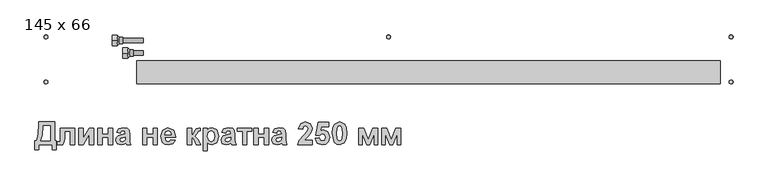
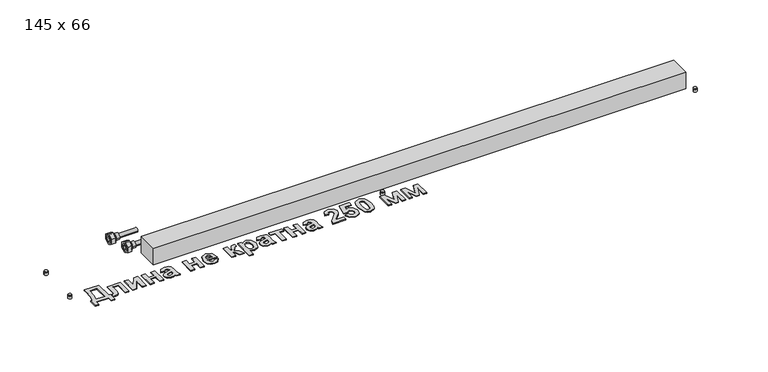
"""IFC4 building model written with IfcOpenShell, lengths in millimetres: proxy geometry, Mohlenhof_Внутрипольный конвектор_QSKM : 145 x 66."""

from ifc_helpers import new_model, si_unit, point, frame, frame_2d, origin, origin_with_axes, place, context, project, spatial, polyline, circle_curve, trimmed, segment, composite_curve, outline, extrude, source, transform, mapped, element, save
from ifc_brep_helpers import plane_surface, cylinder_surface, revolved_surface, advanced_brep


def proxy_145_x_66_9b323317(model_context):
    return source(origin(), model_context, "Body", "SolidModel", [
        extrude(outline(composite_curve([segment(trimmed(circle_curve(frame_2d((0.0, -223.5)), 4.5), [point((-4.5, -223.5))], [point((4.5, -223.5))], False, "CARTESIAN"), True, "CONTINUOUS"), segment(trimmed(circle_curve(frame_2d((0.0, -223.5)), 4.5), [point((4.5, -223.5))], [point((-4.5, -223.5))], False, "CARTESIAN"), True, "CONTINUOUS")], self_intersect=False)), frame((0.0, 0.0, -79.0), z_axis=(0.0, 0.0, 1.0), x_axis=(1.0, 0.0, 0.0)), (0.0, 0.0, 1.0), 7.0),
        extrude(outline(composite_curve([segment(trimmed(circle_curve(frame_2d((0.0, -223.5)), 4.0), [point((-4.0, -223.5))], [point((4.0, -223.5))], False, "CARTESIAN"), True, "CONTINUOUS"), segment(trimmed(circle_curve(frame_2d((0.0, -223.5)), 4.0), [point((4.0, -223.5))], [point((-4.0, -223.5))], False, "CARTESIAN"), True, "CONTINUOUS")], self_intersect=False)), frame((0.0, 0.0, -72.0), z_axis=(0.0, 0.0, 1.0), x_axis=(1.0, 0.0, 0.0)), (0.0, 0.0, 1.0), 1.5),
        extrude(outline(composite_curve([segment(trimmed(circle_curve(frame_2d((0.0, -121.5)), 4.5), [point((-4.5, -121.5))], [point((4.5, -121.5))], False, "CARTESIAN"), True, "CONTINUOUS"), segment(trimmed(circle_curve(frame_2d((0.0, -121.5)), 4.5), [point((4.5, -121.5))], [point((-4.5, -121.5))], False, "CARTESIAN"), True, "CONTINUOUS")], self_intersect=False)), frame((0.0, 0.0, -79.0), z_axis=(0.0, 0.0, 1.0), x_axis=(1.0, 0.0, 0.0)), (0.0, 0.0, 1.0), 7.0),
        extrude(outline(composite_curve([segment(trimmed(circle_curve(frame_2d((0.0, -121.5)), 4.0), [point((-4.0, -121.5))], [point((4.0, -121.5))], False, "CARTESIAN"), True, "CONTINUOUS"), segment(trimmed(circle_curve(frame_2d((0.0, -121.5)), 4.0), [point((4.0, -121.5))], [point((-4.0, -121.5))], False, "CARTESIAN"), True, "CONTINUOUS")], self_intersect=False)), frame((0.0, 0.0, -72.0), z_axis=(0.0, 0.0, 1.0), x_axis=(1.0, 0.0, 0.0)), (0.0, 0.0, 1.0), 1.5),
        extrude(outline(polyline([(-791.0929735, -313.98703), (-755.4648675, -313.98703), (-755.4648675, -356.0929735), (-751.416219, -356.0929735), (-751.416219, -376.3362156), (-760.3232456, -376.3362156), (-760.3232456, -365.0), (-791.0929735, -365.0), (-791.0929735, -376.3362156), (-800.0, -376.3362156), (-800.0, -356.0929735), (-795.9513516, -356.0929735), (-792.0355495, -341.0244102), (-791.0929735, -319.3388371), (-791.0929735, -313.98703)]), holes=[polyline([(-781.3762173, -322.8940565), (-782.5908118, -342.5806094), (-786.2345954, -356.0929735), (-765.1816237, -356.0929735), (-765.1816237, -322.8940565), (-781.3762173, -322.8940565)])]), origin_with_axes(), (0.0, 0.0, 1.0), 2.0),
        extrude(outline(polyline([(-742.5091925, -327.7524346), (-710.1200052, -327.7524346), (-710.1200052, -365.0), (-719.8367614, -365.0), (-719.8367614, -335.0400017), (-732.7924364, -335.0400017), (-732.7924364, -352.2720616), (-734.2221153, -361.4953887), (-737.3851219, -364.981022), (-742.9646655, -365.8097297), (-748.98703, -365.2150844), (-748.98703, -358.3450342), (-745.2293782, -358.5221625), (-742.9330354, -357.1810478), (-742.5091925, -349.7163522), (-742.5091925, -327.7524346)])), origin_with_axes(), (0.0, 0.0, 1.0), 2.0),
        extrude(outline(polyline([(-700.4032491, -327.7524346), (-690.6864929, -327.7524346), (-690.6864929, -350.6652542), (-676.9210883, -327.7524346), (-667.2043321, -327.7524346), (-667.2043321, -365.0), (-676.9210883, -365.0), (-676.9210883, -342.0745284), (-690.6864929, -365.0), (-700.4032491, -365.0), (-700.4032491, -327.7524346)])), origin_with_axes(), (0.0, 0.0, 1.0), 2.0),
        extrude(outline(polyline([(-657.4875759, -327.7524346), (-647.7708197, -327.7524346), (-647.7708197, -341.5178392), (-634.0054151, -341.5178392), (-634.0054151, -327.7524346), (-624.2886589, -327.7524346), (-624.2886589, -365.0), (-634.0054151, -365.0), (-634.0054151, -348.8054063), (-647.7708197, -348.8054063), (-647.7708197, -365.0), (-657.4875759, -365.0), (-657.4875759, -327.7524346)])), origin_with_axes(), (0.0, 0.0, 1.0), 2.0),
        extrude(outline(polyline([(-606.4746059, -339.0886502), (-615.3816324, -337.4691908), (-610.4916242, -329.5237183), (-600.1865488, -326.9427049), (-590.9379176, -328.5052302), (-586.6615327, -332.4653144), (-585.4216341, -341.2774507), (-585.4216341, -352.7654906), (-584.9092271, -360.0024496), (-582.9924451, -365.0), (-592.7092013, -365.0), (-593.6201472, -361.9129056), (-599.1617347, -364.525549), (-605.070231, -365.8097297), (-613.8064551, -362.6910052), (-617.0010918, -354.8151188), (-615.5777388, -349.1976192), (-611.5860245, -345.4146633), (-604.1845891, -343.1246465), (-595.1383903, -340.7081095), (-596.3466588, -335.4828227), (-600.8950623, -334.2302721), (-604.4249776, -335.3056943), (-606.4746059, -339.0886502)]), holes=[polyline([(-595.1383903, -347.9956767), (-600.6167177, -349.3431175), (-605.5257039, -350.8803387), (-607.2843356, -353.9800851), (-605.8736346, -357.1747217), (-602.2867852, -358.5221625), (-597.6434915, -356.9533113), (-595.4926471, -354.0433452), (-595.1383903, -349.7543083), (-595.1383903, -347.9956767)])]), origin_with_axes(), (0.0, 0.0, 1.0), 2.0),
        extrude(outline(polyline([(-556.2713656, -327.7524346), (-546.5546094, -327.7524346), (-546.5546094, -341.5178392), (-532.7892048, -341.5178392), (-532.7892048, -327.7524346), (-523.0724486, -327.7524346), (-523.0724486, -365.0), (-532.7892048, -365.0), (-532.7892048, -348.8054063), (-546.5546094, -348.8054063), (-546.5546094, -365.0), (-556.2713656, -365.0), (-556.2713656, -327.7524346)])), origin_with_axes(), (0.0, 0.0, 1.0), 2.0),
        extrude(outline(polyline([(-492.3027206, -353.6637844), (-482.5859645, -355.2832438), (-488.3805925, -363.1211741), (-498.2871291, -365.8097297), (-506.4761531, -364.2250634), (-512.21701, -359.4710645), (-515.7848814, -346.6545619), (-511.0530236, -332.1806438), (-499.0842067, -326.9427049), (-486.2677041, -332.3198161), (-481.7762348, -348.8054063), (-506.0681253, -348.8054063), (-503.7781085, -355.9664532), (-498.3250852, -358.5221625), (-494.5927374, -357.3708281), (-492.3027206, -353.6637844)]), holes=[polyline([(-491.492991, -343.1372986), (-493.6564875, -336.5013108), (-498.6666899, -334.2302721), (-503.8793247, -336.621505), (-505.9036489, -343.1372986), (-491.492991, -343.1372986)])]), origin_with_axes(), (0.0, 0.0, 1.0), 2.0),
        extrude(outline(polyline([(-455.0551553, -327.7524346), (-445.3383991, -327.7524346), (-445.3383991, -343.1372986), (-441.94133, -341.6380335), (-439.531119, -336.3052044), (-435.4824706, -329.2833298), (-429.7131466, -327.7524346), (-425.9048867, -327.9169109), (-425.8669306, -334.2302721), (-430.7253087, -334.9893936), (-433.0279775, -339.6959474), (-437.8483995, -346.211741), (-430.0800554, -354.1951695), (-424.2854273, -365.0), (-435.204126, -365.0), (-439.8094636, -354.5747303), (-442.2639567, -350.5134299), (-445.3383991, -349.615136), (-445.3383991, -365.0), (-455.0551553, -365.0), (-455.0551553, -327.7524346)])), origin_with_axes(), (0.0, 0.0, 1.0), 2.0),
        extrude(outline(polyline([(-419.4270492, -327.7524346), (-409.710293, -327.7524346), (-409.710293, -333.1168938), (-405.0923034, -328.6507285), (-398.627118, -326.9427049), (-388.1196102, -332.0224935), (-383.7989432, -346.1611329), (-388.2587825, -360.647703), (-399.0699389, -365.8097297), (-404.5482663, -364.6077872), (-409.710293, -360.4832266), (-409.710293, -378.7654046), (-419.4270492, -378.7654046), (-419.4270492, -327.7524346)]), holes=[polyline([(-409.710293, -345.730964), (-407.274778, -355.397112), (-401.3346516, -358.5221625), (-395.748782, -355.6564786), (-393.5156994, -346.249697), (-395.8120422, -337.1908462), (-401.51178, -334.2302721), (-407.3759942, -337.1339121), (-409.710293, -345.730964)])]), origin_with_axes(), (0.0, 0.0, 1.0), 2.0),
        extrude(outline(polyline([(-368.4140792, -339.0886502), (-377.3211057, -337.4691908), (-372.4310976, -329.5237183), (-362.1260222, -326.9427049), (-352.8773909, -328.5052302), (-348.6010061, -332.4653144), (-347.3611075, -341.2774507), (-347.3611075, -352.7654906), (-346.8487004, -360.0024496), (-344.9319184, -365.0), (-354.6486746, -365.0), (-355.5596205, -361.9129056), (-361.101208, -364.525549), (-367.0097043, -365.8097297), (-375.7459285, -362.6910052), (-378.9405651, -354.8151188), (-377.5172121, -349.1976192), (-373.5254978, -345.4146633), (-366.1240625, -343.1246465), (-357.0778637, -340.7081095), (-358.2861322, -335.4828227), (-362.8345356, -334.2302721), (-366.364451, -335.3056943), (-368.4140792, -339.0886502)]), holes=[polyline([(-357.0778637, -347.9956767), (-362.5561911, -349.3431175), (-367.4651773, -350.8803387), (-369.2238089, -353.9800851), (-367.813108, -357.1747217), (-364.2262585, -358.5221625), (-359.5829649, -356.9533113), (-357.4321204, -354.0433452), (-357.0778637, -349.7543083), (-357.0778637, -347.9956767)])]), origin_with_axes(), (0.0, 0.0, 1.0), 2.0),
        extrude(outline(polyline([(-341.6929997, -327.7524346), (-309.3038124, -327.7524346), (-309.3038124, -335.0400017), (-320.640028, -335.0400017), (-320.640028, -365.0), (-330.3567841, -365.0), (-330.3567841, -335.0400017), (-341.6929997, -335.0400017), (-341.6929997, -327.7524346)])), origin_with_axes(), (0.0, 0.0, 1.0), 2.0),
        extrude(outline(polyline([(-304.4454343, -327.7524346), (-294.7286781, -327.7524346), (-294.7286781, -341.5178392), (-280.9632735, -341.5178392), (-280.9632735, -327.7524346), (-271.2465173, -327.7524346), (-271.2465173, -365.0), (-280.9632735, -365.0), (-280.9632735, -348.8054063), (-294.7286781, -348.8054063), (-294.7286781, -365.0), (-304.4454343, -365.0), (-304.4454343, -327.7524346)])), origin_with_axes(), (0.0, 0.0, 1.0), 2.0),
        extrude(outline(polyline([(-253.4324643, -339.0886502), (-262.3394908, -337.4691908), (-257.4494827, -329.5237183), (-247.1444072, -326.9427049), (-237.895776, -328.5052302), (-233.6193911, -332.4653144), (-232.3794926, -341.2774507), (-232.3794926, -352.7654906), (-231.8670855, -360.0024496), (-229.9503035, -365.0), (-239.6670597, -365.0), (-240.5780056, -361.9129056), (-246.1195931, -364.525549), (-252.0280894, -365.8097297), (-260.7643135, -362.6910052), (-263.9589502, -354.8151188), (-262.5355972, -349.1976192), (-258.5438829, -345.4146633), (-251.1424476, -343.1246465), (-242.0962488, -340.7081095), (-243.3045173, -335.4828227), (-247.8529207, -334.2302721), (-251.382836, -335.3056943), (-253.4324643, -339.0886502)]), holes=[polyline([(-242.0962488, -347.9956767), (-247.5745761, -349.3431175), (-252.4835623, -350.8803387), (-254.242194, -353.9800851), (-252.8314931, -357.1747217), (-249.2446436, -358.5221625), (-244.60135, -356.9533113), (-242.4505055, -354.0433452), (-242.0962488, -349.7543083), (-242.0962488, -347.9956767)])]), origin_with_axes(), (0.0, 0.0, 1.0), 2.0),
        extrude(outline(polyline([(-172.4594961, -355.2832438), (-172.4594961, -365.0), (-204.8486834, -365.0), (-201.7489369, -355.4666982), (-191.5640558, -343.5168594), (-184.0487521, -335.3689544), (-182.1762522, -329.5237183), (-183.7514295, -324.6084061), (-188.0974006, -322.8940565), (-192.4496976, -324.583102), (-194.3221975, -330.1816237), (-204.0389537, -329.2959818), (-198.8263188, -317.5485754), (-187.8823161, -313.98703), (-176.5714046, -317.9787443), (-172.4594961, -327.9042589), (-173.5855264, -334.3314883), (-177.1533978, -340.7207616), (-183.1947404, -347.0973828), (-188.7426539, -352.6263183), (-190.5645457, -355.2832438), (-172.4594961, -355.2832438)])), origin_with_axes(), (0.0, 0.0, 1.0), 2.0),
        extrude(outline(polyline([(-165.9816586, -350.6399502), (-157.0746321, -349.615136), (-154.5948349, -354.9416391), (-149.8376731, -356.9027032), (-144.6313642, -354.8214449), (-142.4994978, -348.5523658), (-144.4795399, -342.6691736), (-149.6352406, -340.7081095), (-156.7456794, -344.7567579), (-165.1719289, -343.5042073), (-159.5038211, -314.7967597), (-135.2119307, -314.7967597), (-135.2119307, -324.5135159), (-151.6469128, -324.5135159), (-153.6079769, -333.7874511), (-147.3452239, -331.801083), (-137.0211704, -336.4000946), (-132.7827416, -348.3372814), (-136.312657, -359.2559801), (-142.0661659, -364.1712923), (-149.6858487, -365.8097297), (-160.8259579, -361.6978211), (-165.9816586, -350.6399502)])), origin_with_axes(), (0.0, 0.0, 1.0), 2.0),
        extrude(outline(polyline([(-110.9200402, -313.98703), (-99.5964767, -319.2502729), (-95.9432041, -327.5278611), (-94.7254465, -339.9110319), (-95.9495301, -352.2942026), (-99.6217807, -360.6223989), (-110.9200402, -365.8097297), (-117.4911863, -364.3863767), (-122.6547946, -360.1163179), (-127.1146338, -339.8098157), (-125.8905503, -327.483579), (-122.2182997, -319.1743608), (-110.9200402, -313.98703)]), holes=[polyline([(-110.9200402, -322.8940565), (-114.1589589, -323.9631527), (-116.3604115, -327.8030427), (-117.3978776, -339.9110319), (-116.4742797, -351.6078302), (-114.1399809, -355.846259), (-110.9200402, -356.9027032), (-107.6811215, -355.833607), (-105.4796689, -351.993717), (-104.4422027, -339.9110319), (-105.3658006, -328.2205596), (-107.7000995, -323.9631527), (-110.9200402, -322.8940565)])]), origin_with_axes(), (0.0, 0.0, 1.0), 2.0),
        extrude(outline(polyline([(-67.1946373, -327.7524346), (-56.0735062, -327.7524346), (-45.7368007, -353.7017405), (-35.2988791, -327.7524346), (-24.2789642, -327.7524346), (-24.2789642, -365.0), (-32.376261, -365.0), (-32.376261, -340.4803731), (-42.2448415, -365.0), (-49.3299762, -365.0), (-59.0973405, -340.4803731), (-59.0973405, -365.0), (-67.1946373, -365.0), (-67.1946373, -327.7524346)])), origin_with_axes(), (0.0, 0.0, 1.0), 2.0),
        extrude(outline(polyline([(-15.3719377, -327.7524346), (-4.2508065, -327.7524346), (6.0858989, -353.7017405), (16.5238206, -327.7524346), (27.5437355, -327.7524346), (27.5437355, -365.0), (19.4464387, -365.0), (19.4464387, -340.4803731), (9.5778582, -365.0), (2.4927235, -365.0), (-7.2746408, -340.4803731), (-7.2746408, -365.0), (-15.3719377, -365.0), (-15.3719377, -327.7524346)])), origin_with_axes(), (0.0, 0.0, 1.0), 2.0),
        advanced_brep(
        [(-590.0, -158.0, -47.5), (-590.0, -146.0, -47.5), (-590.0, -170.0, -47.5), (-577.5, -165.5, -47.5), (-577.5, -150.5, -47.5), (-577.5, -158.0, -47.5), (-585.0, -165.5, -47.5), (-585.0, -150.5, -47.5)],
        [
            (0, 1),
            (1, 2, circle_curve(frame((-590.0, -158.0, -47.5), z_axis=(-1.0, 0.0, 0.0), x_axis=(0.0, 1.0, 0.0)), 12.0)),
            (2, 0),
            (2, 1, circle_curve(frame((-590.0, -158.0, -47.5), z_axis=(-1.0, 0.0, 0.0), x_axis=(0.0, 1.0, 0.0)), 12.0)),
            (3, 4, circle_curve(frame((-577.5, -158.0, -47.5), z_axis=(1.0, 0.0, 0.0), x_axis=(0.0, 1.0, 0.0)), 7.5)),
            (4, 5),
            (5, 3),
            (4, 3, circle_curve(frame((-577.5, -158.0, -47.5), z_axis=(1.0, 0.0, 0.0), x_axis=(0.0, 1.0, 0.0)), 7.5)),
            (6, 7, circle_curve(frame((-585.0, -158.0, -47.5), z_axis=(1.0, 0.0, 0.0), x_axis=(0.0, 1.0, 0.0)), 7.5)),
            (7, 4),
            (3, 6),
            (7, 6, circle_curve(frame((-585.0, -158.0, -47.5), z_axis=(1.0, 0.0, 0.0), x_axis=(0.0, 1.0, 0.0)), 7.5)),
            (1, 7),
            (6, 2),
        ],
        [
            plane_surface(frame((-590.0, -158.0, -47.5), z_axis=(-1.0, 0.0, 0.0), x_axis=(0.0, 1.0, 0.0))),
            plane_surface(frame((-577.5, -158.0, -47.5), z_axis=(1.0, 0.0, 0.0), x_axis=(0.0, 1.0, 0.0))),
            cylinder_surface(frame((-590.0, -158.0, -47.5), z_axis=(-1.0, 0.0, 0.0), x_axis=(0.0, 1.0, 0.0)), 7.5),
            revolved_surface(polyline([(-585.0, -150.5, -47.5), (-590.0, -146.0, -47.5)]), (-590.0, -158.0, -47.5), (-1.0, 0.0, 0.0)),
        ],
        [
            (0, [[1, 2, 3]]),
            (0, [[-3, 4, -1]]),
            (1, [[5, 6, 7]]),
            (1, [[8, -7, -6]]),
            (2, [[9, 10, -5, 11]]),
            (2, [[12, -11, -8, -10]]),
            (3, [[-2, 13, -9, 14]]),
            (3, [[-4, -14, -12, -13]]),
        ],
    ),
        extrude(outline(polyline([(-158.0, -33.6435935), (-146.0, -40.5717968), (-146.0, -54.4282032), (-158.0, -61.3564065), (-170.0, -54.4282032), (-170.0, -40.5717968), (-158.0, -33.6435935)]), holes=[composite_curve([segment(trimmed(circle_curve(frame_2d((-158.0, -47.5)), 8.5), [point((-149.5, -47.5))], [point((-166.5, -47.5))], True, "CARTESIAN"), True, "CONTINUOUS"), segment(trimmed(circle_curve(frame_2d((-158.0, -47.5)), 8.5), [point((-166.5, -47.5))], [point((-149.5, -47.5))], True, "CARTESIAN"), True, "CONTINUOUS")], self_intersect=False)]), frame((-601.0, 0.0, 0.0), z_axis=(1.0, 0.0, 0.0), x_axis=(0.0, 1.0, 0.0)), (0.0, 0.0, 1.0), 11.0),
        advanced_brep(
        [(-614.0, -130.0, -34.5), (-614.0, -118.0, -34.5), (-614.0, -142.0, -34.5), (-601.5, -137.5, -34.5), (-601.5, -122.5, -34.5), (-601.5, -130.0, -34.5), (-609.0, -137.5, -34.5), (-609.0, -122.5, -34.5)],
        [
            (0, 1),
            (1, 2, circle_curve(frame((-614.0, -130.0, -34.5), z_axis=(-1.0, 0.0, 0.0), x_axis=(0.0, 1.0, 0.0)), 12.0)),
            (2, 0),
            (2, 1, circle_curve(frame((-614.0, -130.0, -34.5), z_axis=(-1.0, 0.0, 0.0), x_axis=(0.0, 1.0, 0.0)), 12.0)),
            (3, 4, circle_curve(frame((-601.5, -130.0, -34.5), z_axis=(1.0, 0.0, 0.0), x_axis=(0.0, 1.0, 0.0)), 7.5)),
            (4, 5),
            (5, 3),
            (4, 3, circle_curve(frame((-601.5, -130.0, -34.5), z_axis=(1.0, 0.0, 0.0), x_axis=(0.0, 1.0, 0.0)), 7.5)),
            (6, 7, circle_curve(frame((-609.0, -130.0, -34.5), z_axis=(1.0, 0.0, 0.0), x_axis=(0.0, 1.0, 0.0)), 7.5)),
            (7, 4),
            (3, 6),
            (7, 6, circle_curve(frame((-609.0, -130.0, -34.5), z_axis=(1.0, 0.0, 0.0), x_axis=(0.0, 1.0, 0.0)), 7.5)),
            (1, 7),
            (6, 2),
        ],
        [
            plane_surface(frame((-614.0, -130.0, -34.5), z_axis=(-1.0, 0.0, 0.0), x_axis=(0.0, 1.0, 0.0))),
            plane_surface(frame((-601.5, -130.0, -34.5), z_axis=(1.0, 0.0, 0.0), x_axis=(0.0, 1.0, 0.0))),
            cylinder_surface(frame((-614.0, -130.0, -34.5), z_axis=(-1.0, 0.0, 0.0), x_axis=(0.0, 1.0, 0.0)), 7.5),
            revolved_surface(polyline([(-609.0, -122.5, -34.5), (-614.0, -118.0, -34.5)]), (-614.0, -130.0, -34.5), (-1.0, 0.0, 0.0)),
        ],
        [
            (0, [[1, 2, 3]]),
            (0, [[-3, 4, -1]]),
            (1, [[5, 6, 7]]),
            (1, [[8, -7, -6]]),
            (2, [[9, 10, -5, 11]]),
            (2, [[12, -11, -8, -10]]),
            (3, [[-2, 13, -9, 14]]),
            (3, [[-4, -14, -12, -13]]),
        ],
    ),
        extrude(outline(polyline([(-130.0, -20.6435935), (-118.0, -27.5717968), (-118.0, -41.4282032), (-130.0, -48.3564065), (-142.0, -41.4282032), (-142.0, -27.5717968), (-130.0, -20.6435935)]), holes=[composite_curve([segment(trimmed(circle_curve(frame_2d((-130.0, -34.5)), 8.5), [point((-121.5, -34.5))], [point((-138.5, -34.5))], True, "CARTESIAN"), True, "CONTINUOUS"), segment(trimmed(circle_curve(frame_2d((-130.0, -34.5)), 8.5), [point((-138.5, -34.5))], [point((-121.5, -34.5))], True, "CARTESIAN"), True, "CONTINUOUS")], self_intersect=False)]), frame((-625.0, 0.0, 0.0), z_axis=(1.0, 0.0, 0.0), x_axis=(0.0, 1.0, 0.0)), (0.0, 0.0, 1.0), 11.0),
        extrude(outline(composite_curve([segment(trimmed(circle_curve(frame_2d((-775.0, -223.5)), 4.5), [point((-779.5, -223.5))], [point((-770.5, -223.5))], False, "CARTESIAN"), True, "CONTINUOUS"), segment(trimmed(circle_curve(frame_2d((-775.0, -223.5)), 4.5), [point((-770.5, -223.5))], [point((-779.5, -223.5))], False, "CARTESIAN"), True, "CONTINUOUS")], self_intersect=False)), frame((0.0, 0.0, -79.0), z_axis=(0.0, 0.0, 1.0), x_axis=(1.0, 0.0, 0.0)), (0.0, 0.0, 1.0), 7.0),
        extrude(outline(composite_curve([segment(trimmed(circle_curve(frame_2d((-775.0, -223.5)), 4.0), [point((-779.0, -223.5))], [point((-771.0, -223.5))], False, "CARTESIAN"), True, "CONTINUOUS"), segment(trimmed(circle_curve(frame_2d((-775.0, -223.5)), 4.0), [point((-771.0, -223.5))], [point((-779.0, -223.5))], False, "CARTESIAN"), True, "CONTINUOUS")], self_intersect=False)), frame((0.0, 0.0, -72.0), z_axis=(0.0, 0.0, 1.0), x_axis=(1.0, 0.0, 0.0)), (0.0, 0.0, 1.0), 1.5),
        extrude(outline(composite_curve([segment(trimmed(circle_curve(frame_2d((-775.0, -121.5)), 4.5), [point((-779.5, -121.5))], [point((-770.5, -121.5))], False, "CARTESIAN"), True, "CONTINUOUS"), segment(trimmed(circle_curve(frame_2d((-775.0, -121.5)), 4.5), [point((-770.5, -121.5))], [point((-779.5, -121.5))], False, "CARTESIAN"), True, "CONTINUOUS")], self_intersect=False)), frame((0.0, 0.0, -79.0), z_axis=(0.0, 0.0, 1.0), x_axis=(1.0, 0.0, 0.0)), (0.0, 0.0, 1.0), 7.0),
        extrude(outline(composite_curve([segment(trimmed(circle_curve(frame_2d((-775.0, -121.5)), 4.0), [point((-779.0, -121.5))], [point((-771.0, -121.5))], False, "CARTESIAN"), True, "CONTINUOUS"), segment(trimmed(circle_curve(frame_2d((-775.0, -121.5)), 4.0), [point((-771.0, -121.5))], [point((-779.0, -121.5))], False, "CARTESIAN"), True, "CONTINUOUS")], self_intersect=False)), frame((0.0, 0.0, -72.0), z_axis=(0.0, 0.0, 1.0), x_axis=(1.0, 0.0, 0.0)), (0.0, 0.0, 1.0), 1.5),
        extrude(outline(composite_curve([segment(trimmed(circle_curve(frame_2d((775.0, -223.5)), 4.5), [point((770.5, -223.5))], [point((779.5, -223.5))], False, "CARTESIAN"), True, "CONTINUOUS"), segment(trimmed(circle_curve(frame_2d((775.0, -223.5)), 4.5), [point((779.5, -223.5))], [point((770.5, -223.5))], False, "CARTESIAN"), True, "CONTINUOUS")], self_intersect=False)), frame((0.0, 0.0, -79.0), z_axis=(0.0, 0.0, 1.0), x_axis=(1.0, 0.0, 0.0)), (0.0, 0.0, 1.0), 7.0),
        extrude(outline(composite_curve([segment(trimmed(circle_curve(frame_2d((775.0, -223.5)), 4.0), [point((771.0, -223.5))], [point((779.0, -223.5))], False, "CARTESIAN"), True, "CONTINUOUS"), segment(trimmed(circle_curve(frame_2d((775.0, -223.5)), 4.0), [point((779.0, -223.5))], [point((771.0, -223.5))], False, "CARTESIAN"), True, "CONTINUOUS")], self_intersect=False)), frame((0.0, 0.0, -72.0), z_axis=(0.0, 0.0, 1.0), x_axis=(1.0, 0.0, 0.0)), (0.0, 0.0, 1.0), 1.5),
        extrude(outline(composite_curve([segment(trimmed(circle_curve(frame_2d((775.0, -121.5)), 4.5), [point((770.5, -121.5))], [point((779.5, -121.5))], False, "CARTESIAN"), True, "CONTINUOUS"), segment(trimmed(circle_curve(frame_2d((775.0, -121.5)), 4.5), [point((779.5, -121.5))], [point((770.5, -121.5))], False, "CARTESIAN"), True, "CONTINUOUS")], self_intersect=False)), frame((0.0, 0.0, -79.0), z_axis=(0.0, 0.0, 1.0), x_axis=(1.0, 0.0, 0.0)), (0.0, 0.0, 1.0), 7.0),
        extrude(outline(composite_curve([segment(trimmed(circle_curve(frame_2d((775.0, -121.5)), 4.0), [point((771.0, -121.5))], [point((779.0, -121.5))], False, "CARTESIAN"), True, "CONTINUOUS"), segment(trimmed(circle_curve(frame_2d((775.0, -121.5)), 4.0), [point((779.0, -121.5))], [point((771.0, -121.5))], False, "CARTESIAN"), True, "CONTINUOUS")], self_intersect=False)), frame((0.0, 0.0, -72.0), z_axis=(0.0, 0.0, 1.0), x_axis=(1.0, 0.0, 0.0)), (0.0, 0.0, 1.0), 1.5),
        extrude(outline(polyline([(750.0, -175.87), (750.0, -227.18), (-570.0, -227.18), (-570.0, -175.87), (750.0, -175.87)])), frame((0.0, 0.0, -62.5), z_axis=(0.0, 0.0, 1.0), x_axis=(1.0, 0.0, 0.0)), (0.0, 0.0, 1.0), 43.62),
        extrude(outline(composite_curve([segment(trimmed(circle_curve(frame_2d((-158.0, -47.5)), 5.0), [point((-163.0, -47.5))], [point((-153.0, -47.5))], False, "CARTESIAN"), True, "CONTINUOUS"), segment(trimmed(circle_curve(frame_2d((-158.0, -47.5)), 5.0), [point((-153.0, -47.5))], [point((-163.0, -47.5))], False, "CARTESIAN"), True, "CONTINUOUS")], self_intersect=False)), frame((-601.0, 0.0, 0.0), z_axis=(1.0, 0.0, 0.0), x_axis=(0.0, 1.0, 0.0)), (0.0, 0.0, 1.0), 46.0),
        extrude(outline(composite_curve([segment(trimmed(circle_curve(frame_2d((-130.0, -34.5)), 5.0), [point((-135.0, -34.5))], [point((-125.0, -34.5))], False, "CARTESIAN"), True, "CONTINUOUS"), segment(trimmed(circle_curve(frame_2d((-130.0, -34.5)), 5.0), [point((-125.0, -34.5))], [point((-135.0, -34.5))], False, "CARTESIAN"), True, "CONTINUOUS")], self_intersect=False)), frame((-625.0, 0.0, 0.0), z_axis=(1.0, 0.0, 0.0), x_axis=(0.0, 1.0, 0.0)), (0.0, 0.0, 1.0), 70.0),
    ])


if __name__ == "__main__":
    model = new_model("IFC4")
    model_context = context("Model", 3, world=origin())
    ifc_project = project(units=[si_unit("LENGTHUNIT", "METRE", prefix="MILLI")], contexts=[model_context])
    site = spatial("IfcSite", under=ifc_project)
    building = spatial("IfcBuilding", under=site)
    placement = place(None, origin())
    proxy_145_x_66_shape = proxy_145_x_66_9b323317(model_context)
    element("IfcBuildingElementProxy", 1, Name="Mohlenhof_Внутрипольный конвектор_QSKM : 145 x 66", ObjectType="Mohlenhof_Внутрипольный конвектор_QSKM : 145 x 66", at=placement, inside=building, context=model_context, shape_type="MappedRepresentation", body=[
        mapped(proxy_145_x_66_shape, transform((0.0, 0.0, 0.0), x_axis=(1.0, 0.0, 0.0), y_axis=(0.0, 1.0, 0.0), z_axis=(0.0, 0.0, 1.0))),
    ])
    save(model, "model.ifc")
